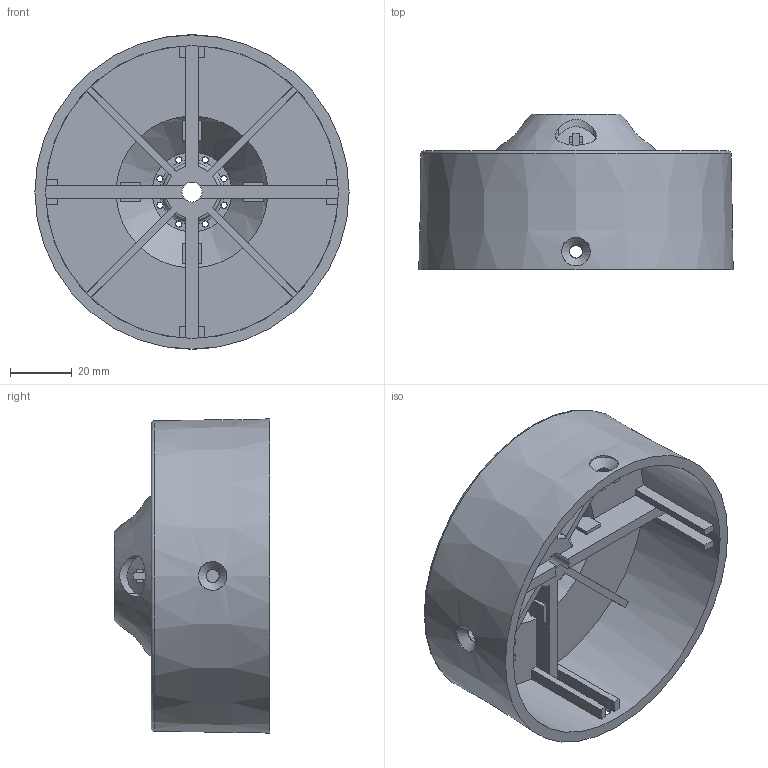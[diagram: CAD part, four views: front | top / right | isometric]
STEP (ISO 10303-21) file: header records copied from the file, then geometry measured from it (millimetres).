
FILE_DESCRIPTION( ( 'STEP AP203' ), ' ' );
FILE_NAME( 'p:/temp/worker_12/3972_3860/app_90_02015083108234771127523192d056f_000000_00_00_000000/format_2/E17328.stp', '2015-08-31T06:23:49', ( '' ), ( '' ), ' ', 'PARTsolutions', ' ' );
FILE_SCHEMA( ( 'CONFIG_CONTROL_DESIGN' ) );
Length unit declared in the file: millimetre
Products named in the file (1): _E17328
Bounding box: 102 x 50.4 x 102 mm (x, y, z)
Volume: 78100.1 mm3; surface area: 49870.8 mm2
Topology: 1 solids, 1 shells, 240 faces, 711 edges, 470 vertices
Faces by surface type: plane 162, cylinder 44, cone 17, torus 17
Full cylindrical faces by diameter (mm): 2 x8, 4.2 x3, 6.5 x1, 9.3 x3, 12.7 x1, 95 x1
Entity records: 8940 total; most frequent: CARTESIAN_POINT 2904, ORIENTED_EDGE 1332, DIRECTION 1092, EDGE_CURVE 666, VERTEX_POINT 450, LINE 368, VECTOR 368, AXIS2_PLACEMENT_3D 362
